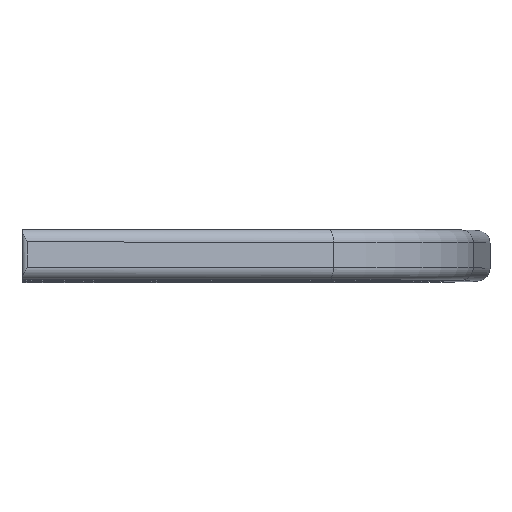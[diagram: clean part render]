
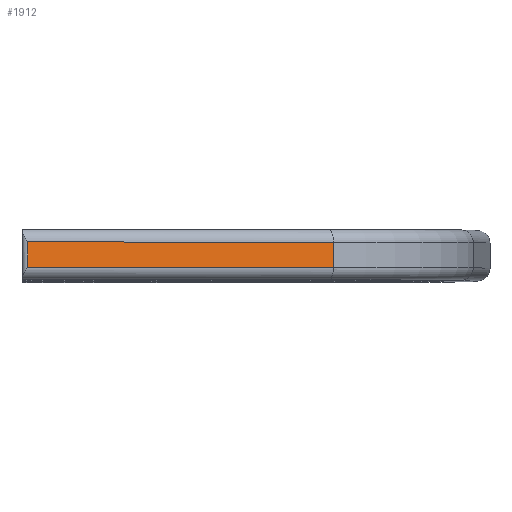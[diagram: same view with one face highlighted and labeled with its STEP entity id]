
A CAD part, top view. The second image highlights one B-rep face of the part: STEP entity #1912.
In plain terms, the highlighted planar face has unit normal (0.409, 0, 0.913).
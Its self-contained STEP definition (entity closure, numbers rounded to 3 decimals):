
#122 = ORIENTED_EDGE ( 'NONE', *, *, #1629, .T. ) ;
#157 = EDGE_CURVE ( 'NONE', #1501, #875, #2454, .T. ) ;
#231 = EDGE_CURVE ( 'NONE', #364, #1658, #2069, .T. ) ;
#364 = VERTEX_POINT ( 'NONE', #1074 ) ;
#411 = ORIENTED_EDGE ( 'NONE', *, *, #2395, .T. ) ;
#429 = CARTESIAN_POINT ( 'NONE',  ( 1.409, 3.175, -11.113 ) ) ;
#440 = CARTESIAN_POINT ( 'NONE',  ( 1.409, 12.7, -11.113 ) ) ;
#516 = CARTESIAN_POINT ( 'NONE',  ( 0., 3.175, -10.482 ) ) ;
#527 = CARTESIAN_POINT ( 'NONE',  ( 78.68, 3.175, -45.727 ) ) ;
#531 = CARTESIAN_POINT ( 'NONE',  ( 78.68, 9.525, -45.727 ) ) ;
#577 = DIRECTION ( 'NONE',  ( -0.913, 0., 0.409 ) ) ;
#875 = VERTEX_POINT ( 'NONE', #527 ) ;
#1048 = FACE_OUTER_BOUND ( 'NONE', #2993, .T. ) ;
#1065 = DIRECTION ( 'NONE',  ( 0.913, 0., -0.409 ) ) ;
#1074 = CARTESIAN_POINT ( 'NONE',  ( 1.409, 9.525, -11.113 ) ) ;
#1151 = ORIENTED_EDGE ( 'NONE', *, *, #157, .F. ) ;
#1200 = DIRECTION ( 'NONE',  ( -0.913, 0., 0.409 ) ) ;
#1326 = VECTOR ( 'NONE', #1200, 1000. ) ;
#1453 = DIRECTION ( 'NONE',  ( 0., -1., 0. ) ) ;
#1462 = LINE ( 'NONE', #2750, #1326 ) ;
#1501 = VERTEX_POINT ( 'NONE', #531 ) ;
#1520 = VECTOR ( 'NONE', #1692, 1000. ) ;
#1629 = EDGE_CURVE ( 'NONE', #1501, #364, #1462, .T. ) ;
#1630 = VECTOR ( 'NONE', #1453, 1000. ) ;
#1658 = VERTEX_POINT ( 'NONE', #429 ) ;
#1692 = DIRECTION ( 'NONE',  ( 0., -1., 0. ) ) ;
#1912 = ADVANCED_FACE ( 'NONE', ( #1048 ), #3238, .F. ) ;
#1988 = ORIENTED_EDGE ( 'NONE', *, *, #231, .T. ) ;
#2026 = AXIS2_PLACEMENT_3D ( 'NONE', #2149, #2675, #577 ) ;
#2069 = LINE ( 'NONE', #440, #1630 ) ;
#2149 = CARTESIAN_POINT ( 'NONE',  ( 0., 12.7, -10.482 ) ) ;
#2395 = EDGE_CURVE ( 'NONE', #1658, #875, #2837, .T. ) ;
#2454 = LINE ( 'NONE', #2995, #1520 ) ;
#2675 = DIRECTION ( 'NONE',  ( -0.409, 0., -0.913 ) ) ;
#2750 = CARTESIAN_POINT ( 'NONE',  ( 1.409, 9.525, -11.113 ) ) ;
#2789 = VECTOR ( 'NONE', #1065, 1000. ) ;
#2837 = LINE ( 'NONE', #516, #2789 ) ;
#2993 = EDGE_LOOP ( 'NONE', ( #1988, #411, #1151, #122 ) ) ;
#2995 = CARTESIAN_POINT ( 'NONE',  ( 78.68, 12.7, -45.727 ) ) ;
#3238 = PLANE ( 'NONE',  #2026 ) ;
